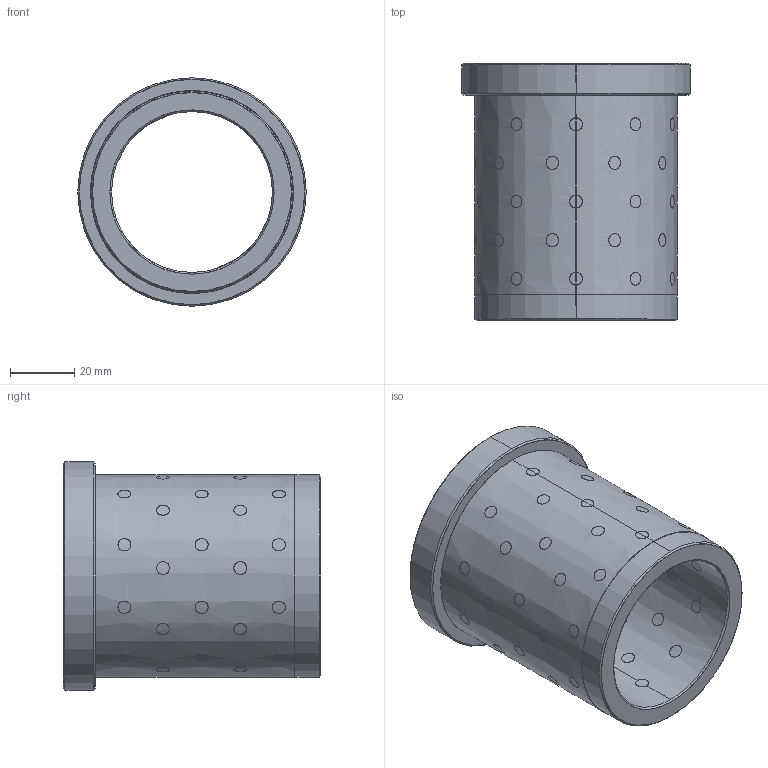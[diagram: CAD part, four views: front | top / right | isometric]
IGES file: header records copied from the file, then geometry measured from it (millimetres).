
Start section: SolidWorks IGES file using analytic representation for surfaces
Global section: file name: C:\Users\Dell\Desktop\delta\kontrol edilecekler\D30.03\D30.03_5080.igs; native system: SolidWorks 2010; preprocessor: SolidWorks 2010; author: Dell; date: 111219.003247; units: millimetre
Bounding box: 71 x 80 x 71 mm (x, y, z)
Surface area: 45437.8 mm2 (no closed solid volume)
Topology: 0 solids, 0 shells, 536 faces, 15937 edges, 15937 vertices
Faces by surface type: revolution 530, bspline 6
